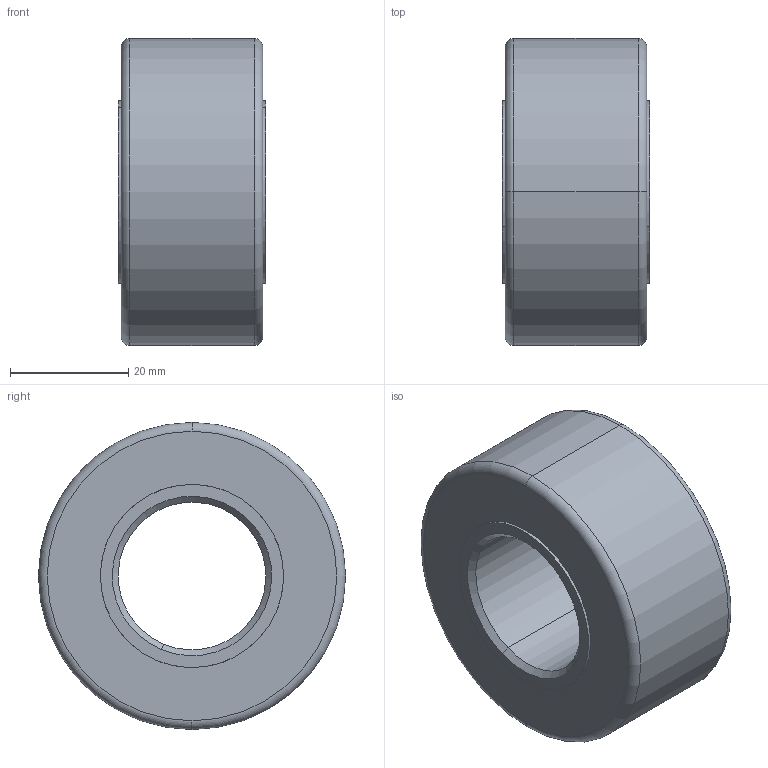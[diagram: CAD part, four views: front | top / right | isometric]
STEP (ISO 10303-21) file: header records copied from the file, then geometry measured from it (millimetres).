
FILE_DESCRIPTION (( 'STEP AP214' ), '1' );
FILE_NAME ('3DNUTR25-52.STEP', '2013-12-18T09:05:35', ( 'usuario' ), ( 'Hewlett-Packard Company' ), 'SwSTEP 2.0', 'SolidWorks 2017', '' );
FILE_SCHEMA (( 'AUTOMOTIVE_DESIGN' ));
Length unit declared in the file: millimetre
Products named in the file (1): 3DNUTR25-52
Bounding box: 25 x 52 x 52 mm (x, y, z)
Volume: 39215.8 mm3; surface area: 13620.2 mm2
Topology: 2 solids, 2 shells, 20 faces, 42 edges, 26 vertices
Faces by surface type: cylinder 8, torus 4, plane 4, cone 4
Entity records: 599 total; most frequent: DIRECTION 114, CARTESIAN_POINT 89, ORIENTED_EDGE 84, AXIS2_PLACEMENT_3D 51, EDGE_CURVE 42, CIRCLE 30, VERTEX_POINT 26, EDGE_LOOP 24
